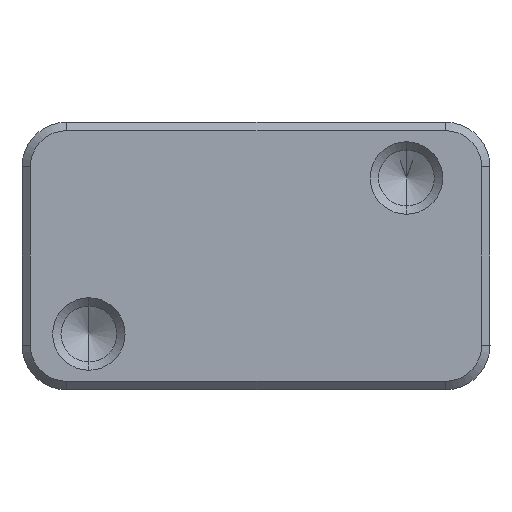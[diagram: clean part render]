
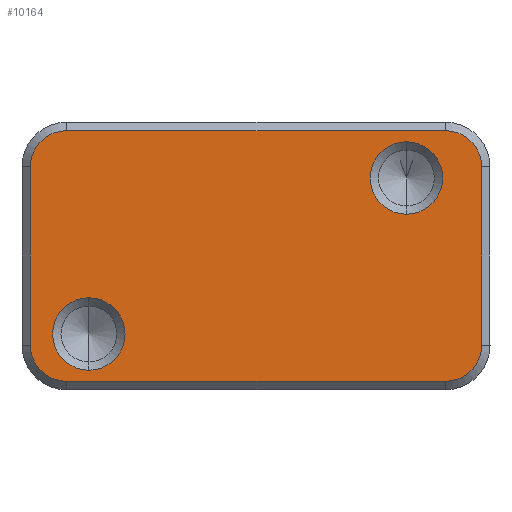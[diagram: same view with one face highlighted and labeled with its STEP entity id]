
A CAD part, front view. The second image highlights one B-rep face of the part: STEP entity #10164.
In plain terms, the highlighted planar face has unit normal (0, -1, 0).
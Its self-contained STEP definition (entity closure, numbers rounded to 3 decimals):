
#424 = VERTEX_POINT ( 'NONE', #5004 ) ;
#456 = EDGE_CURVE ( 'NONE', #7576, #6908, #12497, .T. ) ;
#592 = CARTESIAN_POINT ( 'NONE',  ( -15., 0., -7.005 ) ) ;
#746 = CARTESIAN_POINT ( 'NONE',  ( -17., 0., 7.995 ) ) ;
#747 = EDGE_CURVE ( 'NONE', #12601, #424, #1477, .T. ) ;
#847 = DIRECTION ( 'NONE',  ( 0., 0., 1. ) ) ;
#897 = CARTESIAN_POINT ( 'NONE',  ( -15., 0., -3.755 ) ) ;
#949 = EDGE_CURVE ( 'NONE', #5023, #10611, #8849, .T. ) ;
#1081 = CARTESIAN_POINT ( 'NONE',  ( -15., 0., -7.005 ) ) ;
#1200 = ORIENTED_EDGE ( 'NONE', *, *, #11625, .T. ) ;
#1448 = ORIENTED_EDGE ( 'NONE', *, *, #456, .F. ) ;
#1449 = CARTESIAN_POINT ( 'NONE',  ( -20.25, 0., 7.995 ) ) ;
#1450 = CARTESIAN_POINT ( 'NONE',  ( 13.5, 0., 3.745 ) ) ;
#1477 = LINE ( 'NONE', #5792, #8640 ) ;
#1890 = CIRCLE ( 'NONE', #5052, 3.25 ) ;
#2085 = CARTESIAN_POINT ( 'NONE',  ( 17., 0., 11.245 ) ) ;
#2094 = EDGE_CURVE ( 'NONE', #7576, #2188, #9654, .T. ) ;
#2133 = DIRECTION ( 'NONE',  ( 0., 0., -1. ) ) ;
#2188 = VERTEX_POINT ( 'NONE', #2684 ) ;
#2275 = ORIENTED_EDGE ( 'NONE', *, *, #12883, .F. ) ;
#2344 = CIRCLE ( 'NONE', #12560, 3.25 ) ;
#2377 = DIRECTION ( 'NONE',  ( 0., -1., 0. ) ) ;
#2490 = LINE ( 'NONE', #8033, #8848 ) ;
#2684 = CARTESIAN_POINT ( 'NONE',  ( 20.25, 0., 7.995 ) ) ;
#2754 = DIRECTION ( 'NONE',  ( 0., -1., 0. ) ) ;
#2943 = DIRECTION ( 'NONE',  ( -1., 0., 0. ) ) ;
#3292 = DIRECTION ( 'NONE',  ( 0., 1., 0. ) ) ;
#3604 = FACE_BOUND ( 'NONE', #13255, .T. ) ;
#3650 = CARTESIAN_POINT ( 'NONE',  ( 13.5, 0., 6.995 ) ) ;
#3705 = DIRECTION ( 'NONE',  ( 0., -1., 0. ) ) ;
#3713 = AXIS2_PLACEMENT_3D ( 'NONE', #10159, #3705, #12299 ) ;
#3847 = CIRCLE ( 'NONE', #9529, 3.25 ) ;
#3866 = DIRECTION ( 'NONE',  ( 0., -1., 0. ) ) ;
#4337 = VECTOR ( 'NONE', #847, 1000. ) ;
#4389 = AXIS2_PLACEMENT_3D ( 'NONE', #1081, #7254, #6403 ) ;
#4663 = VERTEX_POINT ( 'NONE', #897 ) ;
#4704 = DIRECTION ( 'NONE',  ( 0., 1., 0. ) ) ;
#4786 = DIRECTION ( 'NONE',  ( -1., 0., 0. ) ) ;
#4912 = DIRECTION ( 'NONE',  ( 0., 0., -1. ) ) ;
#5004 = CARTESIAN_POINT ( 'NONE',  ( -20.25, 0., -8.006 ) ) ;
#5023 = VERTEX_POINT ( 'NONE', #2085 ) ;
#5052 = AXIS2_PLACEMENT_3D ( 'NONE', #3650, #7982, #5911 ) ;
#5069 = DIRECTION ( 'NONE',  ( -1., 0., 0. ) ) ;
#5553 = EDGE_CURVE ( 'NONE', #2188, #5023, #7795, .T. ) ;
#5750 = EDGE_CURVE ( 'NONE', #10611, #12601, #2344, .T. ) ;
#5792 = CARTESIAN_POINT ( 'NONE',  ( -20.25, 0., -12.006 ) ) ;
#5801 = CARTESIAN_POINT ( 'NONE',  ( -21., 0., -12.006 ) ) ;
#5911 = DIRECTION ( 'NONE',  ( 0., 0., -1. ) ) ;
#6026 = EDGE_CURVE ( 'NONE', #424, #9231, #13243, .T. ) ;
#6156 = EDGE_CURVE ( 'NONE', #9302, #8515, #1890, .T. ) ;
#6365 = AXIS2_PLACEMENT_3D ( 'NONE', #13024, #3292, #2943 ) ;
#6403 = DIRECTION ( 'NONE',  ( 0., 0., -1. ) ) ;
#6565 = ORIENTED_EDGE ( 'NONE', *, *, #6026, .T. ) ;
#6662 = CIRCLE ( 'NONE', #4389, 3.25 ) ;
#6792 = EDGE_LOOP ( 'NONE', ( #9111, #9113, #6565, #2275, #1448, #12059, #8630, #9274 ) ) ;
#6908 = VERTEX_POINT ( 'NONE', #7184 ) ;
#6978 = CARTESIAN_POINT ( 'NONE',  ( 13.5, 0., 10.245 ) ) ;
#7050 = EDGE_CURVE ( 'NONE', #10540, #4663, #6662, .T. ) ;
#7159 = CARTESIAN_POINT ( 'NONE',  ( 20.25, 0., -8.006 ) ) ;
#7184 = CARTESIAN_POINT ( 'NONE',  ( 17., 0., -11.256 ) ) ;
#7254 = DIRECTION ( 'NONE',  ( 0., 1., 0. ) ) ;
#7311 = DIRECTION ( 'NONE',  ( 0., 1., 0. ) ) ;
#7484 = AXIS2_PLACEMENT_3D ( 'NONE', #12857, #7311, #2133 ) ;
#7576 = VERTEX_POINT ( 'NONE', #7159 ) ;
#7795 = CIRCLE ( 'NONE', #3713, 3.25 ) ;
#7982 = DIRECTION ( 'NONE',  ( 0., 1., 0. ) ) ;
#8033 = CARTESIAN_POINT ( 'NONE',  ( -21., 0., -11.256 ) ) ;
#8515 = VERTEX_POINT ( 'NONE', #1450 ) ;
#8630 = ORIENTED_EDGE ( 'NONE', *, *, #5553, .T. ) ;
#8640 = VECTOR ( 'NONE', #9070, 1000. ) ;
#8848 = VECTOR ( 'NONE', #11085, 1000. ) ;
#8849 = LINE ( 'NONE', #13181, #13192 ) ;
#8895 = CARTESIAN_POINT ( 'NONE',  ( -17., 0., 11.245 ) ) ;
#9010 = PLANE ( 'NONE',  #12461 ) ;
#9070 = DIRECTION ( 'NONE',  ( 0., 0., -1. ) ) ;
#9111 = ORIENTED_EDGE ( 'NONE', *, *, #5750, .T. ) ;
#9113 = ORIENTED_EDGE ( 'NONE', *, *, #747, .T. ) ;
#9231 = VERTEX_POINT ( 'NONE', #9758 ) ;
#9259 = ORIENTED_EDGE ( 'NONE', *, *, #13651, .T. ) ;
#9274 = ORIENTED_EDGE ( 'NONE', *, *, #949, .T. ) ;
#9302 = VERTEX_POINT ( 'NONE', #6978 ) ;
#9529 = AXIS2_PLACEMENT_3D ( 'NONE', #592, #4704, #4912 ) ;
#9654 = LINE ( 'NONE', #10570, #4337 ) ;
#9753 = CIRCLE ( 'NONE', #7484, 3.25 ) ;
#9758 = CARTESIAN_POINT ( 'NONE',  ( -17., 0., -11.256 ) ) ;
#9834 = DIRECTION ( 'NONE',  ( 0., 0., 1. ) ) ;
#10159 = CARTESIAN_POINT ( 'NONE',  ( 17., 0., 7.995 ) ) ;
#10164 = ADVANCED_FACE ( 'NONE', ( #12489, #11282, #3604 ), #9010, .T. ) ;
#10540 = VERTEX_POINT ( 'NONE', #11089 ) ;
#10570 = CARTESIAN_POINT ( 'NONE',  ( 20.25, 0., -12.006 ) ) ;
#10611 = VERTEX_POINT ( 'NONE', #8895 ) ;
#11085 = DIRECTION ( 'NONE',  ( -1., 0., 0. ) ) ;
#11089 = CARTESIAN_POINT ( 'NONE',  ( -15., 0., -10.255 ) ) ;
#11155 = ORIENTED_EDGE ( 'NONE', *, *, #7050, .T. ) ;
#11190 = AXIS2_PLACEMENT_3D ( 'NONE', #12111, #2377, #9834 ) ;
#11282 = FACE_OUTER_BOUND ( 'NONE', #6792, .T. ) ;
#11625 = EDGE_CURVE ( 'NONE', #8515, #9302, #9753, .T. ) ;
#12059 = ORIENTED_EDGE ( 'NONE', *, *, #2094, .T. ) ;
#12111 = CARTESIAN_POINT ( 'NONE',  ( -17., 0., -8.006 ) ) ;
#12299 = DIRECTION ( 'NONE',  ( 0., 0., 1. ) ) ;
#12461 = AXIS2_PLACEMENT_3D ( 'NONE', #5801, #2754, #13555 ) ;
#12489 = FACE_BOUND ( 'NONE', #12633, .T. ) ;
#12497 = CIRCLE ( 'NONE', #6365, 3.25 ) ;
#12560 = AXIS2_PLACEMENT_3D ( 'NONE', #746, #3866, #5069 ) ;
#12601 = VERTEX_POINT ( 'NONE', #1449 ) ;
#12633 = EDGE_LOOP ( 'NONE', ( #1200, #13746 ) ) ;
#12857 = CARTESIAN_POINT ( 'NONE',  ( 13.5, 0., 6.995 ) ) ;
#12883 = EDGE_CURVE ( 'NONE', #6908, #9231, #2490, .T. ) ;
#13024 = CARTESIAN_POINT ( 'NONE',  ( 17., 0., -8.006 ) ) ;
#13181 = CARTESIAN_POINT ( 'NONE',  ( -21., 0., 11.245 ) ) ;
#13192 = VECTOR ( 'NONE', #4786, 1000. ) ;
#13243 = CIRCLE ( 'NONE', #11190, 3.25 ) ;
#13255 = EDGE_LOOP ( 'NONE', ( #11155, #9259 ) ) ;
#13555 = DIRECTION ( 'NONE',  ( 1., 0., 0. ) ) ;
#13651 = EDGE_CURVE ( 'NONE', #4663, #10540, #3847, .T. ) ;
#13746 = ORIENTED_EDGE ( 'NONE', *, *, #6156, .T. ) ;
